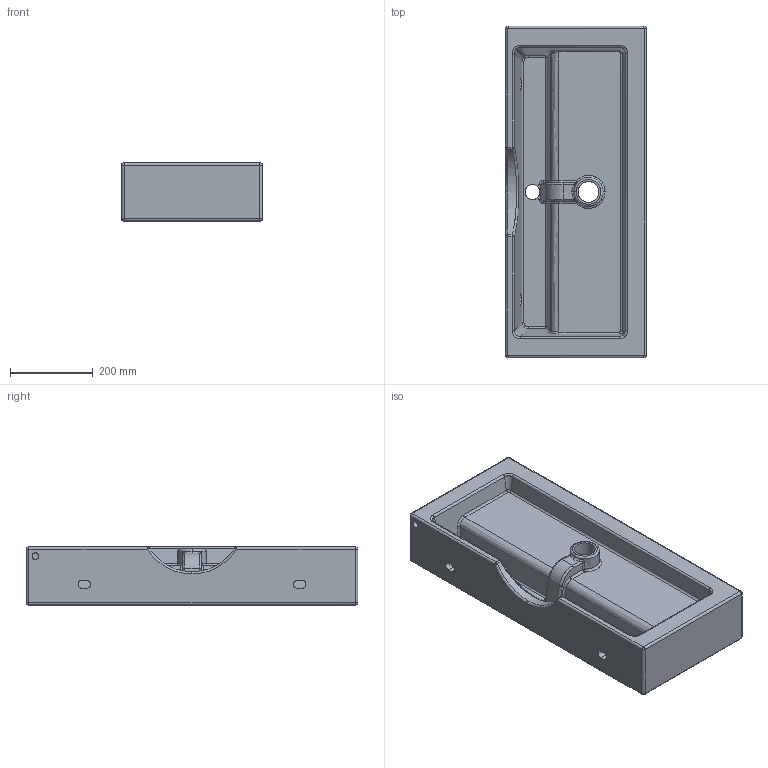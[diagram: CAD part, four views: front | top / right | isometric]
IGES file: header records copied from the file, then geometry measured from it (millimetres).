
Start section: C
Global section: file name: TeoremaR 80x35.igs; native system:  By UGS Corp.; preprocessor: XPlus GENERIC/IGES 3.0; author: Author; organization: Title; date: 20140131.124122; units: millimetre
Bounding box: 340 x 800 x 140 mm (x, y, z)
Surface area: 1133124.5 mm2 (no closed solid volume)
Topology: 0 solids, 0 shells, 170 faces, 814 edges, 800 vertices
Faces by surface type: bspline 170
